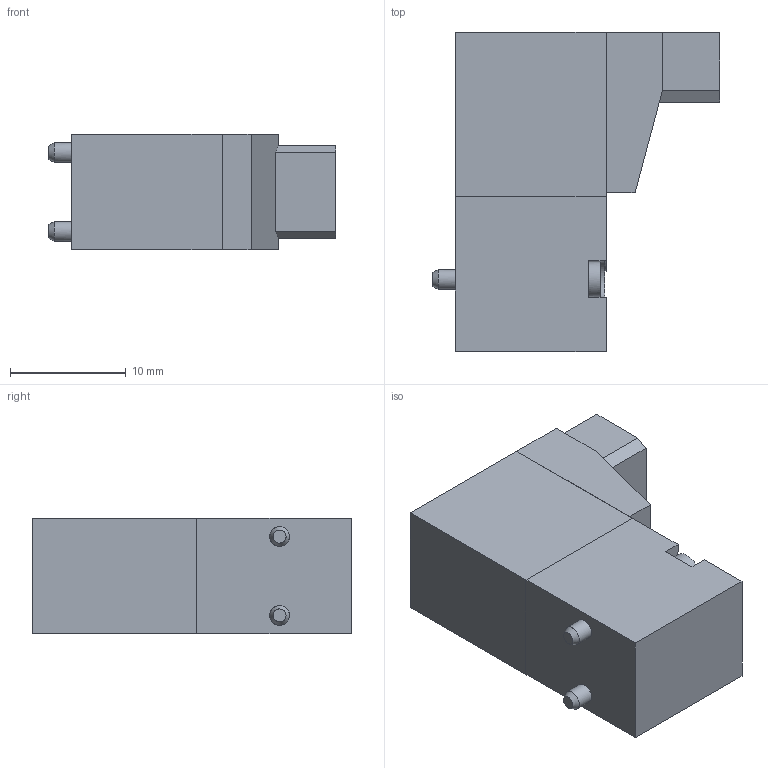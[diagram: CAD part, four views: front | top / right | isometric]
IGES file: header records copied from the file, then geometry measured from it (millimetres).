
Global section: file name: P3##.4; native system: Autodesk Inventor 2014; preprocessor: unknown; author: A. Manieri; organization: Pneumax S.p.A.; date: 20160902.102249; units: millimetre
Bounding box: 24.8 x 27.5 x 10 mm (x, y, z)
Volume: 4247.1 mm3; surface area: 2025 mm2
Topology: 1 solids, 1 shells, 86 faces, 217 edges, 142 vertices
Faces by surface type: bspline 86
